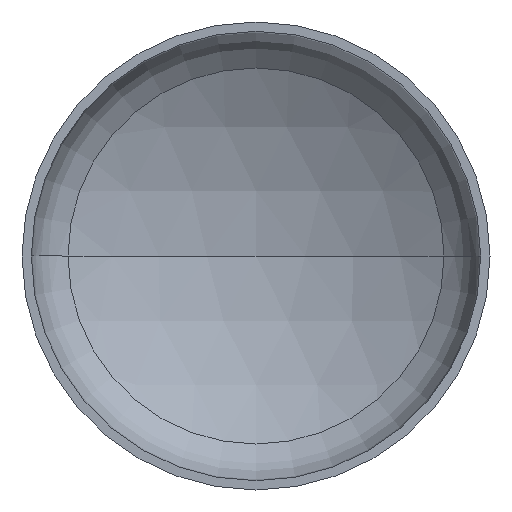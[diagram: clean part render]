
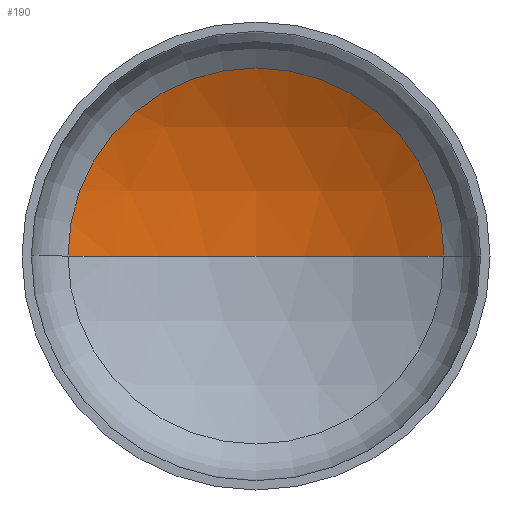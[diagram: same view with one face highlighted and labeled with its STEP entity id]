
A CAD part, front view. The second image highlights one B-rep face of the part: STEP entity #190.
In plain terms, the highlighted spherical face has radius 560 mm.
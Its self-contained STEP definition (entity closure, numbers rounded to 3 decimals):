
#9 = DIRECTION ( 'NONE',  ( 0., 0., -1. ) ) ;
#15 = EDGE_LOOP ( 'NONE', ( #121, #52, #27 ) ) ;
#18 = AXIS2_PLACEMENT_3D ( 'NONE', #112, #116, #101 ) ;
#27 = ORIENTED_EDGE ( 'NONE', *, *, #366, .T. ) ;
#28 = AXIS2_PLACEMENT_3D ( 'NONE', #233, #56, #75 ) ;
#52 = ORIENTED_EDGE ( 'NONE', *, *, #368, .T. ) ;
#56 = DIRECTION ( 'NONE',  ( 0., -1., 0. ) ) ;
#61 = AXIS2_PLACEMENT_3D ( 'NONE', #162, #332, #185 ) ;
#67 = AXIS2_PLACEMENT_3D ( 'NONE', #277, #9, #374 ) ;
#69 = FACE_OUTER_BOUND ( 'NONE', #15, .T. ) ;
#75 = DIRECTION ( 'NONE',  ( 1., 0., 0. ) ) ;
#101 = DIRECTION ( 'NONE',  ( -1., 0., 0. ) ) ;
#112 = CARTESIAN_POINT ( 'NONE',  ( 0., -344.132, 0. ) ) ;
#116 = DIRECTION ( 'NONE',  ( 0., 0., -1. ) ) ;
#121 = ORIENTED_EDGE ( 'NONE', *, *, #350, .F. ) ;
#130 = VERTEX_POINT ( 'NONE', #316 ) ;
#132 = VERTEX_POINT ( 'NONE', #295 ) ;
#162 = CARTESIAN_POINT ( 'NONE',  ( 0., -344.132, 0. ) ) ;
#168 = VERTEX_POINT ( 'NONE', #201 ) ;
#185 = DIRECTION ( 'NONE',  ( 1., 0., 0. ) ) ;
#190 = ADVANCED_FACE ( 'NONE', ( #69 ), #372, .F. ) ;
#201 = CARTESIAN_POINT ( 'NONE',  ( -281.244, 140.121, 0. ) ) ;
#233 = CARTESIAN_POINT ( 'NONE',  ( 0., 140.121, 0. ) ) ;
#270 = CIRCLE ( 'NONE', #18, 560. ) ;
#277 = CARTESIAN_POINT ( 'NONE',  ( 0., -344.132, 0. ) ) ;
#295 = CARTESIAN_POINT ( 'NONE',  ( 0., 215.868, 0. ) ) ;
#316 = CARTESIAN_POINT ( 'NONE',  ( 281.244, 140.121, 0. ) ) ;
#332 = DIRECTION ( 'NONE',  ( 0., 0., 1. ) ) ;
#344 = CIRCLE ( 'NONE', #28, 281.244 ) ;
#350 = EDGE_CURVE ( 'NONE', #132, #168, #358, .T. ) ;
#358 = CIRCLE ( 'NONE', #61, 560. ) ;
#366 = EDGE_CURVE ( 'NONE', #130, #168, #344, .T. ) ;
#368 = EDGE_CURVE ( 'NONE', #132, #130, #270, .T. ) ;
#372 = SPHERICAL_SURFACE ( 'NONE', #67, 560. ) ;
#374 = DIRECTION ( 'NONE',  ( -1., 0., 0. ) ) ;
